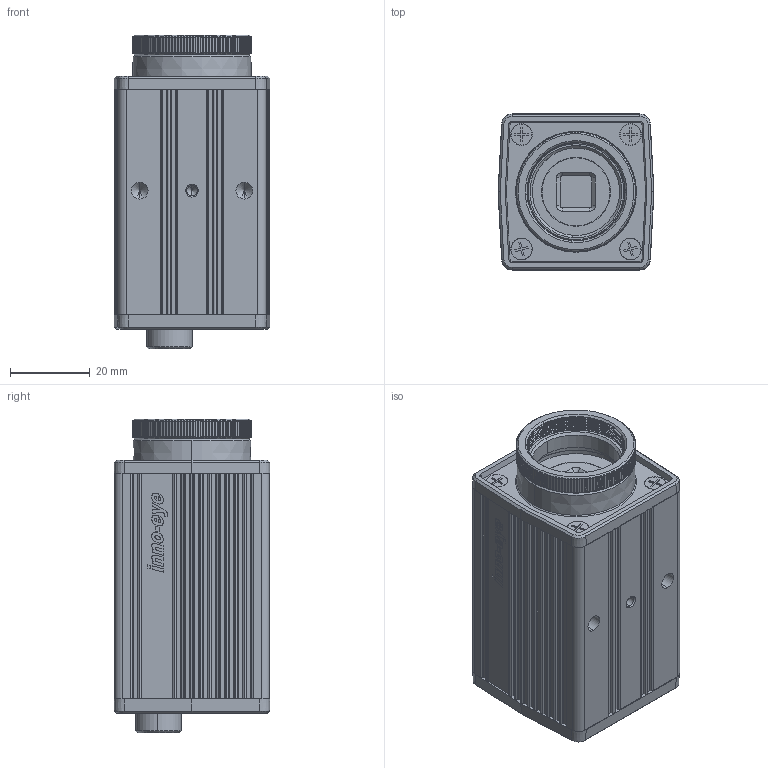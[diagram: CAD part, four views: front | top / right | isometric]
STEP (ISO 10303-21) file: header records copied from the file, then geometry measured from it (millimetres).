
FILE_DESCRIPTION (( 'STEP AP203' ), '1' );
FILE_NAME ('C-MOUNT (AR)-16.08.05.STEP', '2016-08-08T11:36:59', ( '' ), ( '' ), 'SwSTEP 2.0', 'SolidWorks 2008', '' );
FILE_SCHEMA (( 'CONFIG_CONTROL_DESIGN' ));
Length unit declared in the file: millimetre
Products named in the file (1): C-MOUNT (AR)-16.08.05
Bounding box: 39.2 x 39.2 x 78.94 mm (x, y, z)
Volume: 92219 mm3; surface area: 27550.6 mm2
Topology: 24 solids, 24 shells, 1911 faces, 5325 edges, 3505 vertices
Faces by surface type: plane 1039, cylinder 651, bspline 120, cone 101
Entity records: 65046 total; most frequent: CARTESIAN_POINT 16558, ORIENTED_EDGE 10638, DIRECTION 9477, EDGE_CURVE 5319, VERTEX_POINT 3505, VECTOR 3177, LINE 3177, AXIS2_PLACEMENT_3D 3150
